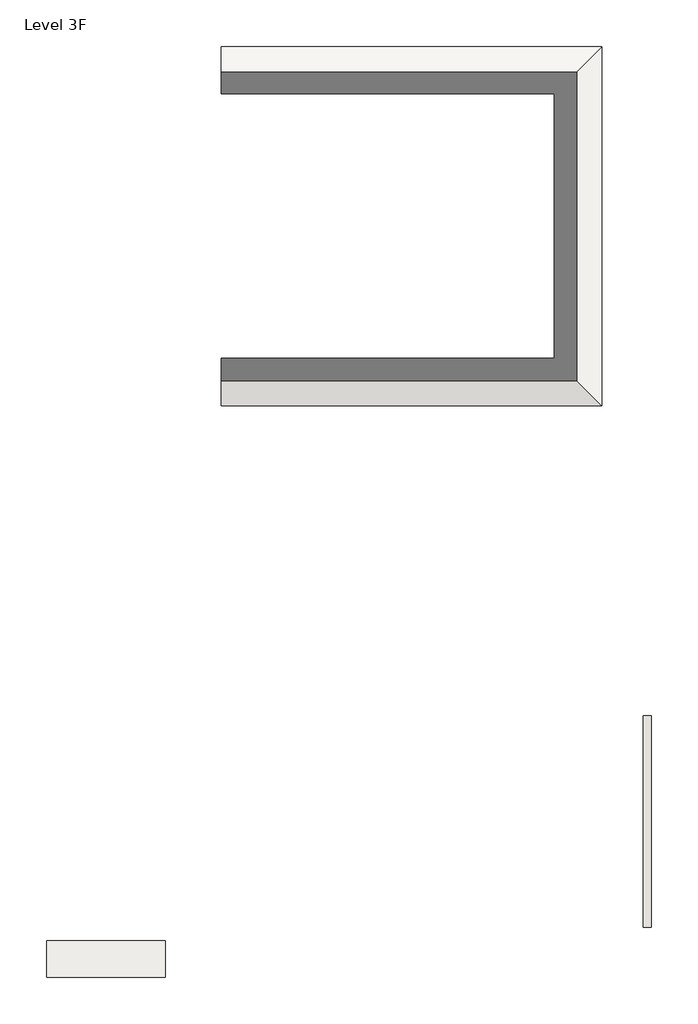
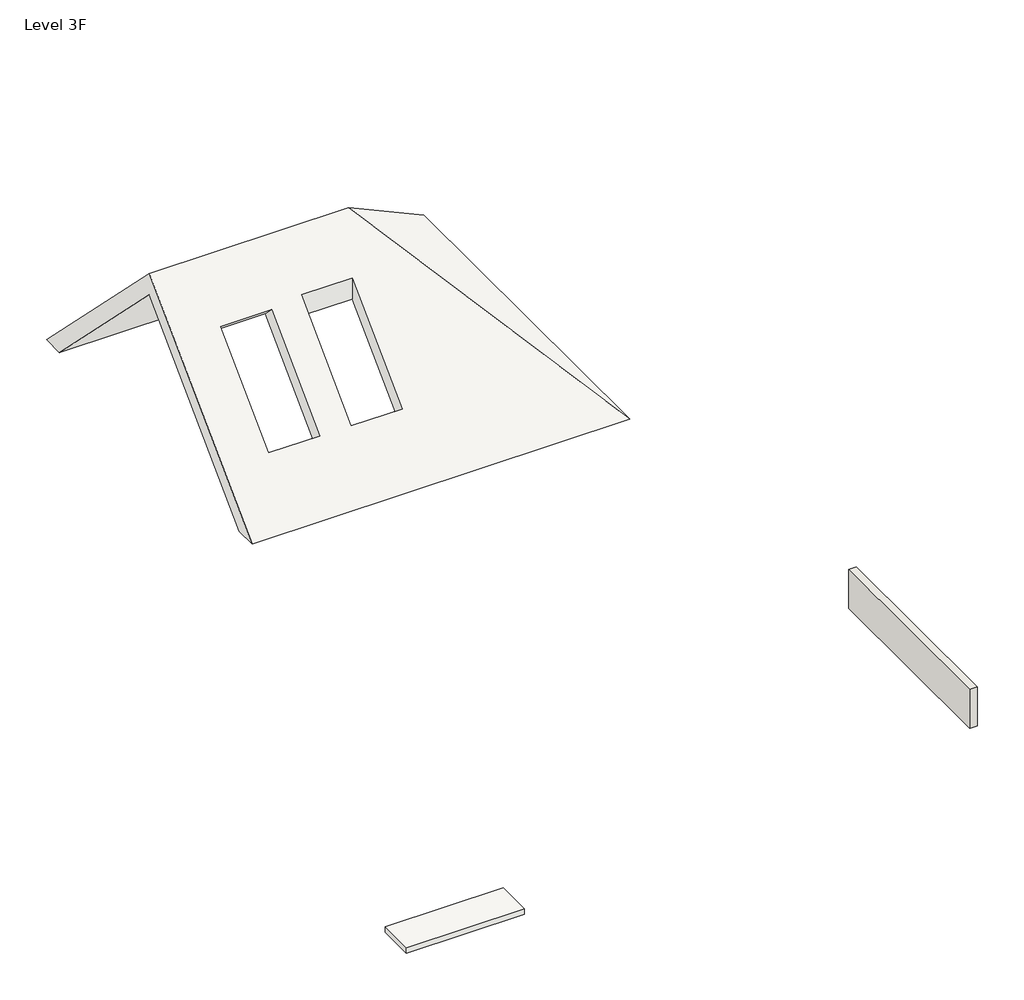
# One storey, incomplete: 1 roof, 1 slab, 1 wall.
"""IFC4 building model written with IfcOpenShell, lengths in millimetres."""

from ifc_helpers import new_model, si_unit, frame, origin, place, context, project, spatial, polyline, outline, extrude, faceted_brep, element, save

model = new_model("IFC4")

# Units and contexts
model_context = context("Model", 3, world=origin())
ifc_project = project(units=[si_unit("LENGTHUNIT", "METRE", prefix="MILLI")], contexts=[model_context])

# Site, building, storey
site = spatial("IfcSite", under=ifc_project)
building = spatial("IfcBuilding", under=site)
storey = spatial("IfcBuildingStorey", under=building, Name="Level 3F", Elevation=5100.0)

# Roof
placement = place(None, origin())
element("IfcRoof", 1, ObjectType="Generic - 400mm", at=placement, inside=storey, context=model_context, shape_type="Brep", body=[
    faceted_brep([(-3054.0420521, 9041.1146631, 5665.6854249), (6006.7327669, 9041.1146631, 5665.6854249), (2029.882979, 5064.2648752, 9642.5352128), (-3054.0420521, 5064.2648752, 9642.5352128), (6006.7327669, 1087.4150873, 5665.6854249), (-3054.0420521, 1087.4150873, 5665.6854249), (-589.5939908, 2084.7840159, 6663.0543535), (-589.5939908, 4206.1043594, 8784.374697), (-1890.0420521, 4206.1043594, 8784.374697), (-1890.0420521, 2084.7840159, 6663.0543535), (1509.8102993, 3996.8247799, 8575.0951175), (209.8102993, 3996.8247799, 8575.0951175), (209.8102993, 1796.8247799, 6375.0951175), (1509.8102993, 1796.8247799, 6375.0951175), (-3054.0420521, 5064.2648752, 10208.2206378), (2029.882979, 5064.2648752, 10208.2206378), (6572.4181918, 9606.800088, 5665.6854249), (-3054.0420521, 9606.800088, 5665.6854249), (-3054.0420521, 521.7296624, 5665.6854249), (6572.4181918, 521.7296624, 5665.6854249), (-589.5939908, 3923.2616469, 9067.2174095), (-589.5939908, 1801.9413034, 6945.8970659), (-1890.0420521, 1801.9413034, 6945.8970659), (-1890.0420521, 3923.2616469, 9067.2174095), (209.8102993, 3996.8247799, 9140.7805424), (1509.8102993, 3996.8247799, 9140.7805424), (1509.8102993, 1796.8247799, 6940.7805424), (209.8102993, 1796.8247799, 6940.7805424)], [[[0, 1, 2, 3]], [[4, 5, 3, 2], [6, 7, 8, 9], [10, 11, 12, 13]], [[1, 4, 2]], [[14, 15, 16, 17]], [[15, 14, 18, 19], [20, 21, 22, 23], [24, 25, 26, 27]], [[16, 15, 19]], [[1, 0, 17, 16, 19, 18, 5, 4]], [[0, 3, 5, 18, 14, 17]], [[20, 7, 6, 21]], [[21, 6, 9, 22]], [[22, 9, 8, 23]], [[7, 20, 23, 8]], [[10, 25, 24, 11]], [[11, 24, 27, 12]], [[12, 27, 26, 13]], [[25, 10, 13, 26]]]),
])

# Slab
element("IfcSlab", 2, ObjectType="Generic 150mm", at=placement, inside=storey, context=model_context, shape_type="SweptSolid", body=[
    extrude(outline(polyline([(-7473.7239276, -13946.8966791), (-7473.7239276, -13021.8966791), (-4473.7239276, -13021.8966791), (-4473.7239276, -13946.8966791), (-7473.7239276, -13946.8966791)])), frame((0.0, 0.0, 4950.0), z_axis=(0.0, 0.0, 1.0), x_axis=(1.0, 0.0, 0.0)), (0.0, 0.0, 1.0), 150.0),
])

# Wall
element("IfcWall", 3, ObjectType="Generic - 200mm", at=placement, inside=storey, context=model_context, shape_type="SweptSolid", body=[
    extrude(outline(polyline([(7826.2760724, -7321.8966791), (7826.2760724, -12671.8966791), (7626.2760724, -12671.8966791), (7626.2760724, -7321.8966791), (7826.2760724, -7321.8966791)])), frame((0.0, 0.0, 4950.0), z_axis=(0.0, 0.0, 1.0), x_axis=(1.0, 0.0, 0.0)), (0.0, 0.0, 1.0), 1050.0),
])

save(model, "model.ifc")
